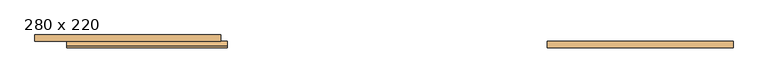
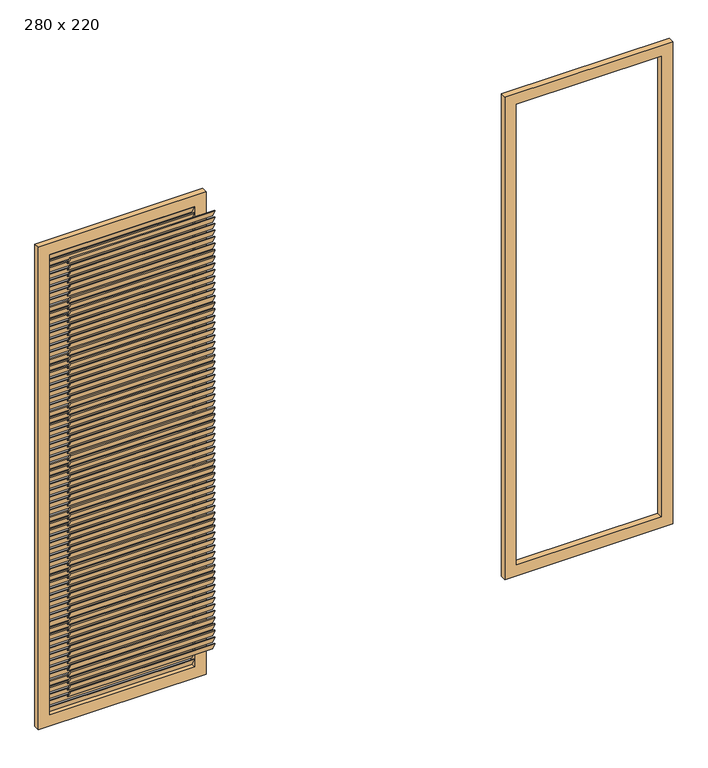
"""IFC4 building model written with IfcOpenShell, lengths in millimetres: door geometry, PORTA DE VIDRO COM ESQUADRIA DE CORRER - 4 FOLHAS + VENEZIANA DE CORRER - 4 FOLHAS : 280 x 220."""

import ifcopenshell
import ifcopenshell.guid

model = None  # the IFC model being written
_history = None  # IfcOwnerHistory: only IFC2X3 demands one
_inside = {}  # id of a spatial element -> (the spatial element, [elements in it])
_under = {}  # id of a project, library or spatial element -> (it, [spatial elements below it])
_declared = {}  # id of a project -> (the project, [libraries it declares])
_typed = {}  # id of a type object -> (the type object, [elements of that type])
_made_of = {}  # id of a material, layer set ... -> (it, [elements and type objects made of it])


def new_model(schema):
    """Start an empty IFC model of exactly this schema.

    Asked for "IFC4X3", IfcOpenShell would pick the latest addendum, in which some entities
    have other attributes; the version numbers below select the first issue.
    IFC2X3 requires an IfcOwnerHistory on every rooted entity: one is made here for all.
    """
    global model, _history
    if schema == "IFC4X3":
        model = ifcopenshell.file(schema_version=(4, 3, 0, 0))
    else:
        model = ifcopenshell.file(schema=schema)
    _inside.clear()
    _under.clear()
    _declared.clear()
    _typed.clear()
    _made_of.clear()
    _history = None
    if model.schema == "IFC2X3":
        org = make("IfcOrganization", Name="unknown")
        user = make(
            "IfcPersonAndOrganization",
            ThePerson=make("IfcPerson", FamilyName="unknown"),
            TheOrganization=org,
        )
        app = make(
            "IfcApplication",
            ApplicationDeveloper=org,
            Version="unknown",
            ApplicationFullName="unknown",
            ApplicationIdentifier="unknown",
        )
        _history = make(
            "IfcOwnerHistory",
            OwningUser=user,
            OwningApplication=app,
            ChangeAction="ADDED",
            CreationDate=0,
        )
    return model


def make(cls, **values):
    """One entity of the class cls with the attributes given. An attribute that is None is left unset."""
    return model.create_entity(
        cls, **{name: value for name, value in values.items() if value is not None}
    )


def rooted(cls, **values):
    """An entity with a GlobalId (a new one), such as an element, a storey or a relation."""
    return make(cls, GlobalId=ifcopenshell.guid.new(), OwnerHistory=_history, **values)


def si_unit(unit_type, name, prefix=None):
    """IfcSIUnit, for example si_unit("LENGTHUNIT", "METRE", prefix="MILLI")."""
    return make("IfcSIUnit", UnitType=unit_type, Prefix=prefix, Name=name)


def assignment(units):
    """IfcUnitAssignment: the units of a project."""
    return None if units is None else make("IfcUnitAssignment", Units=units)


def point(xyz):
    """IfcCartesianPoint."""
    return None if xyz is None else make("IfcCartesianPoint", Coordinates=xyz)


def direction(xyz):
    """IfcDirection."""
    return None if xyz is None else make("IfcDirection", DirectionRatios=xyz)


def frame(location, z_axis=None, x_axis=None):
    """IfcAxis2Placement3D, a coordinate frame: its origin and axes. An axis left out is left unset."""
    return make(
        "IfcAxis2Placement3D",
        Location=point(location),
        Axis=direction(z_axis),
        RefDirection=direction(x_axis),
    )


def origin():
    """The frame at (0, 0, 0) with its axes left unset."""
    return frame((0.0, 0.0, 0.0))


def place(relative_to, where):
    """IfcLocalPlacement: puts the frame where relative to a parent placement (None: the world)."""
    return make(
        "IfcLocalPlacement", PlacementRelTo=relative_to, RelativePlacement=where
    )


def context(
    kind, dimensions, precision=None, world=None, true_north=None, identifier=None
):
    """IfcGeometricRepresentationContext, for example the 3D "Model" context."""
    return make(
        "IfcGeometricRepresentationContext",
        ContextIdentifier=identifier,
        ContextType=kind,
        CoordinateSpaceDimension=dimensions,
        Precision=precision,
        WorldCoordinateSystem=world,
        TrueNorth=true_north,
    )


def project(units=None, contexts=None):
    """IfcProject with its units and contexts."""
    return rooted(
        "IfcProject",
        Name="project",
        RepresentationContexts=contexts,
        UnitsInContext=assignment(units),
    )


def spatial(cls, under=None, at=None, **own):
    """A site, building, storey or space (cls), placed at a placement, below another one or the project."""
    s = rooted(cls, ObjectPlacement=at, **own)
    if under is not None:
        _under.setdefault(under.id(), (under, []))[1].append(s)
    return s


def polyline(points):
    """IfcPolyline through the points."""
    return make("IfcPolyline", Points=[point(p) for p in points])


def outline(outer, holes=None, kind="AREA"):
    """IfcArbitraryClosedProfileDef: a profile drawn as a closed curve; with holes, ...WithVoids."""
    if holes is None:
        return make("IfcArbitraryClosedProfileDef", ProfileType=kind, OuterCurve=outer)
    return make(
        "IfcArbitraryProfileDefWithVoids",
        ProfileType=kind,
        OuterCurve=outer,
        InnerCurves=holes,
    )


def extrude(swept, where, along, depth):
    """IfcExtrudedAreaSolid: the profile swept, set in the frame where, extruded along a direction by depth."""
    return make(
        "IfcExtrudedAreaSolid",
        SweptArea=swept,
        Position=where,
        ExtrudedDirection=direction(along),
        Depth=depth,
    )


def shape(context_of_items, identifier, shape_type, items):
    """IfcShapeRepresentation: the items that make up one representation, for example the "Body"."""
    return make(
        "IfcShapeRepresentation",
        ContextOfItems=context_of_items,
        RepresentationIdentifier=identifier,
        RepresentationType=shape_type,
        Items=items,
    )


def source(mapping_origin, context_of_items, identifier, shape_type, items):
    """IfcRepresentationMap: a shape defined once, which mapped items show again and again."""
    return make(
        "IfcRepresentationMap",
        MappingOrigin=mapping_origin,
        MappedRepresentation=shape(context_of_items, identifier, shape_type, items),
    )


def transform(
    local_origin,
    x_axis=None,
    y_axis=None,
    z_axis=None,
    scale=None,
    scale2=None,
    scale3=None,
    uniform=True,
):
    """IfcCartesianTransformationOperator3D, or its non-uniform kind. x_axis, y_axis, z_axis: its Axis1, 2, 3."""
    if uniform:
        return make(
            "IfcCartesianTransformationOperator3D",
            Axis1=direction(x_axis),
            Axis2=direction(y_axis),
            LocalOrigin=point(local_origin),
            Scale=scale,
            Axis3=direction(z_axis),
        )
    return make(
        "IfcCartesianTransformationOperator3DnonUniform",
        Axis1=direction(x_axis),
        Axis2=direction(y_axis),
        LocalOrigin=point(local_origin),
        Scale=scale,
        Axis3=direction(z_axis),
        Scale2=scale2,
        Scale3=scale3,
    )


def mapped(mapping_source, mapping_target):
    """IfcMappedItem: shows the shape of a source again, moved by a transform."""
    return make(
        "IfcMappedItem", MappingSource=mapping_source, MappingTarget=mapping_target
    )


def made_of(thing, what):
    """Note that an element or type object is made of a material, layer set ...; save() writes the relation."""
    if what is not None:
        _made_of.setdefault(what.id(), (what, []))[1].append(thing)
    return thing


def element(
    cls,
    number,
    at=None,
    inside=None,
    cuts=None,
    type_object=None,
    material=None,
    context=None,
    identifier="Body",
    shape_type=None,
    held_by="IfcProductDefinitionShape",
    body=None,
    shapes=None,
    **own,
):
    """One element of the class cls, such as IfcWall. Its Tag is "e" and its number.

    at: its placement. inside: the storey or other place that contains it. cuts: it is an
    opening in that element (IfcRelVoidsElement). A single representation is given by context,
    identifier, shape_type and body (its items); several are given by shapes. held_by: the class
    of the entity that holds the representations. save() writes the other relations.
    """
    e = rooted(cls, Tag="e%d" % number, ObjectPlacement=at, **own)
    if body is not None:
        shapes = [shape(context, identifier, shape_type, body)]
    if shapes is not None:
        e.Representation = make(held_by, Representations=shapes)
    if inside is not None:
        _inside.setdefault(inside.id(), (inside, []))[1].append(e)
    if cuts is not None:
        rooted(
            "IfcRelVoidsElement", RelatingBuildingElement=cuts, RelatedOpeningElement=e
        )
    if type_object is not None:
        _typed.setdefault(type_object.id(), (type_object, []))[1].append(e)
    return made_of(e, material)


def aggregate(whole, parts):
    """IfcRelAggregates: a whole, such as a stair, and the parts it consists of."""
    return rooted("IfcRelAggregates", RelatingObject=whole, RelatedObjects=parts)


def save(model, path):
    """Write the relations noted so far, then the file.

    IfcRelAggregates (storeys below a building ...), IfcRelContainedInSpatialStructure (elements
    in a storey), IfcRelDefinesByType, IfcRelAssociatesMaterial and IfcRelDeclares: one each for
    every whole, place, type object, material and project.
    """
    for whole, parts in _under.values():
        aggregate(whole, parts)
    for where, things in _inside.values():
        rooted(
            "IfcRelContainedInSpatialStructure",
            RelatedElements=things,
            RelatingStructure=where,
        )
    for kind, things in _typed.values():
        rooted("IfcRelDefinesByType", RelatedObjects=things, RelatingType=kind)
    for what, things in _made_of.values():
        rooted("IfcRelAssociatesMaterial", RelatedObjects=things, RelatingMaterial=what)
    for by, libraries in _declared.values():
        rooted("IfcRelDeclares", RelatingContext=by, RelatedDefinitions=libraries)
    model.write(path)


def door_280_x_220_b82a3945(model_context):
    return source(origin(), model_context, "Body", "SweptSolid", [
        extrude(outline(polyline([(2200.0, 858.9134884), (0.0, 858.9134884), (0.0, 1583.9134884), (2200.0, 1583.9134884), (2200.0, 858.9134884)]), holes=[polyline([(2150.0, 908.9134884), (2150.0, 1533.9134884), (50.0, 1533.9134884), (50.0, 908.9134884), (2150.0, 908.9134884)])]), frame((0.0, -17.0317069, 0.0), z_axis=(0.0, 1.0, 0.0), x_axis=(0.0, 0.0, 1.0)), (0.0, 0.0, 1.0), 25.0),
        extrude(outline(polyline([(27.9682931, 2085.0724638), (7.9682931, 2120.0724638), (12.9682931, 2120.0724638), (32.9682931, 2085.0724638), (27.9682931, 2085.0724638)])), frame((-1091.0865116, 0.0, 0.0), z_axis=(1.0, 0.0, 0.0), x_axis=(0.0, 1.0, 0.0)), (0.0, 0.0, 1.0), 625.0),
        extrude(outline(polyline([(27.9682931, 2055.1449275), (7.9682931, 2090.1449275), (12.9682931, 2090.1449275), (32.9682931, 2055.1449275), (27.9682931, 2055.1449275)])), frame((-1091.0865116, 0.0, 0.0), z_axis=(1.0, 0.0, 0.0), x_axis=(0.0, 1.0, 0.0)), (0.0, 0.0, 1.0), 625.0),
        extrude(outline(polyline([(27.9682931, 2025.2173913), (7.9682931, 2060.2173913), (12.9682931, 2060.2173913), (32.9682931, 2025.2173913), (27.9682931, 2025.2173913)])), frame((-1091.0865116, 0.0, 0.0), z_axis=(1.0, 0.0, 0.0), x_axis=(0.0, 1.0, 0.0)), (0.0, 0.0, 1.0), 625.0),
        extrude(outline(polyline([(27.9682931, 1995.2898551), (7.9682931, 2030.2898551), (12.9682931, 2030.2898551), (32.9682931, 1995.2898551), (27.9682931, 1995.2898551)])), frame((-1091.0865116, 0.0, 0.0), z_axis=(1.0, 0.0, 0.0), x_axis=(0.0, 1.0, 0.0)), (0.0, 0.0, 1.0), 625.0),
        extrude(outline(polyline([(27.9682931, 1965.3623188), (7.9682931, 2000.3623188), (12.9682931, 2000.3623188), (32.9682931, 1965.3623188), (27.9682931, 1965.3623188)])), frame((-1091.0865116, 0.0, 0.0), z_axis=(1.0, 0.0, 0.0), x_axis=(0.0, 1.0, 0.0)), (0.0, 0.0, 1.0), 625.0),
        extrude(outline(polyline([(27.9682931, 1935.4347826), (7.9682931, 1970.4347826), (12.9682931, 1970.4347826), (32.9682931, 1935.4347826), (27.9682931, 1935.4347826)])), frame((-1091.0865116, 0.0, 0.0), z_axis=(1.0, 0.0, 0.0), x_axis=(0.0, 1.0, 0.0)), (0.0, 0.0, 1.0), 625.0),
        extrude(outline(polyline([(27.9682931, 1905.5072464), (7.9682931, 1940.5072464), (12.9682931, 1940.5072464), (32.9682931, 1905.5072464), (27.9682931, 1905.5072464)])), frame((-1091.0865116, 0.0, 0.0), z_axis=(1.0, 0.0, 0.0), x_axis=(0.0, 1.0, 0.0)), (0.0, 0.0, 1.0), 625.0),
        extrude(outline(polyline([(27.9682931, 1875.5797101), (7.9682931, 1910.5797101), (12.9682931, 1910.5797101), (32.9682931, 1875.5797101), (27.9682931, 1875.5797101)])), frame((-1091.0865116, 0.0, 0.0), z_axis=(1.0, 0.0, 0.0), x_axis=(0.0, 1.0, 0.0)), (0.0, 0.0, 1.0), 625.0),
        extrude(outline(polyline([(27.9682931, 1845.6521739), (7.9682931, 1880.6521739), (12.9682931, 1880.6521739), (32.9682931, 1845.6521739), (27.9682931, 1845.6521739)])), frame((-1091.0865116, 0.0, 0.0), z_axis=(1.0, 0.0, 0.0), x_axis=(0.0, 1.0, 0.0)), (0.0, 0.0, 1.0), 625.0),
        extrude(outline(polyline([(27.9682931, 1815.7246377), (7.9682931, 1850.7246377), (12.9682931, 1850.7246377), (32.9682931, 1815.7246377), (27.9682931, 1815.7246377)])), frame((-1091.0865116, 0.0, 0.0), z_axis=(1.0, 0.0, 0.0), x_axis=(0.0, 1.0, 0.0)), (0.0, 0.0, 1.0), 625.0),
        extrude(outline(polyline([(27.9682931, 1785.7971014), (7.9682931, 1820.7971014), (12.9682931, 1820.7971014), (32.9682931, 1785.7971014), (27.9682931, 1785.7971014)])), frame((-1091.0865116, 0.0, 0.0), z_axis=(1.0, 0.0, 0.0), x_axis=(0.0, 1.0, 0.0)), (0.0, 0.0, 1.0), 625.0),
        extrude(outline(polyline([(27.9682931, 1755.8695652), (7.9682931, 1790.8695652), (12.9682931, 1790.8695652), (32.9682931, 1755.8695652), (27.9682931, 1755.8695652)])), frame((-1091.0865116, 0.0, 0.0), z_axis=(1.0, 0.0, 0.0), x_axis=(0.0, 1.0, 0.0)), (0.0, 0.0, 1.0), 625.0),
        extrude(outline(polyline([(27.9682931, 1725.942029), (7.9682931, 1760.942029), (12.9682931, 1760.942029), (32.9682931, 1725.942029), (27.9682931, 1725.942029)])), frame((-1091.0865116, 0.0, 0.0), z_axis=(1.0, 0.0, 0.0), x_axis=(0.0, 1.0, 0.0)), (0.0, 0.0, 1.0), 625.0),
        extrude(outline(polyline([(27.9682931, 1696.0144928), (7.9682931, 1731.0144928), (12.9682931, 1731.0144928), (32.9682931, 1696.0144928), (27.9682931, 1696.0144928)])), frame((-1091.0865116, 0.0, 0.0), z_axis=(1.0, 0.0, 0.0), x_axis=(0.0, 1.0, 0.0)), (0.0, 0.0, 1.0), 625.0),
        extrude(outline(polyline([(27.9682931, 1666.0869565), (7.9682931, 1701.0869565), (12.9682931, 1701.0869565), (32.9682931, 1666.0869565), (27.9682931, 1666.0869565)])), frame((-1091.0865116, 0.0, 0.0), z_axis=(1.0, 0.0, 0.0), x_axis=(0.0, 1.0, 0.0)), (0.0, 0.0, 1.0), 625.0),
        extrude(outline(polyline([(27.9682931, 1636.1594203), (7.9682931, 1671.1594203), (12.9682931, 1671.1594203), (32.9682931, 1636.1594203), (27.9682931, 1636.1594203)])), frame((-1091.0865116, 0.0, 0.0), z_axis=(1.0, 0.0, 0.0), x_axis=(0.0, 1.0, 0.0)), (0.0, 0.0, 1.0), 625.0),
        extrude(outline(polyline([(27.9682931, 1606.2318841), (7.9682931, 1641.2318841), (12.9682931, 1641.2318841), (32.9682931, 1606.2318841), (27.9682931, 1606.2318841)])), frame((-1091.0865116, 0.0, 0.0), z_axis=(1.0, 0.0, 0.0), x_axis=(0.0, 1.0, 0.0)), (0.0, 0.0, 1.0), 625.0),
        extrude(outline(polyline([(27.9682931, 1576.3043478), (7.9682931, 1611.3043478), (12.9682931, 1611.3043478), (32.9682931, 1576.3043478), (27.9682931, 1576.3043478)])), frame((-1091.0865116, 0.0, 0.0), z_axis=(1.0, 0.0, 0.0), x_axis=(0.0, 1.0, 0.0)), (0.0, 0.0, 1.0), 625.0),
        extrude(outline(polyline([(27.9682931, 1546.3768116), (7.9682931, 1581.3768116), (12.9682931, 1581.3768116), (32.9682931, 1546.3768116), (27.9682931, 1546.3768116)])), frame((-1091.0865116, 0.0, 0.0), z_axis=(1.0, 0.0, 0.0), x_axis=(0.0, 1.0, 0.0)), (0.0, 0.0, 1.0), 625.0),
        extrude(outline(polyline([(27.9682931, 1516.4492754), (7.9682931, 1551.4492754), (12.9682931, 1551.4492754), (32.9682931, 1516.4492754), (27.9682931, 1516.4492754)])), frame((-1091.0865116, 0.0, 0.0), z_axis=(1.0, 0.0, 0.0), x_axis=(0.0, 1.0, 0.0)), (0.0, 0.0, 1.0), 625.0),
        extrude(outline(polyline([(27.9682931, 1486.5217391), (7.9682931, 1521.5217391), (12.9682931, 1521.5217391), (32.9682931, 1486.5217391), (27.9682931, 1486.5217391)])), frame((-1091.0865116, 0.0, 0.0), z_axis=(1.0, 0.0, 0.0), x_axis=(0.0, 1.0, 0.0)), (0.0, 0.0, 1.0), 625.0),
        extrude(outline(polyline([(27.9682931, 1456.5942029), (7.9682931, 1491.5942029), (12.9682931, 1491.5942029), (32.9682931, 1456.5942029), (27.9682931, 1456.5942029)])), frame((-1091.0865116, 0.0, 0.0), z_axis=(1.0, 0.0, 0.0), x_axis=(0.0, 1.0, 0.0)), (0.0, 0.0, 1.0), 625.0),
        extrude(outline(polyline([(27.9682931, 1426.6666667), (7.9682931, 1461.6666667), (12.9682931, 1461.6666667), (32.9682931, 1426.6666667), (27.9682931, 1426.6666667)])), frame((-1091.0865116, 0.0, 0.0), z_axis=(1.0, 0.0, 0.0), x_axis=(0.0, 1.0, 0.0)), (0.0, 0.0, 1.0), 625.0),
        extrude(outline(polyline([(27.9682931, 1396.7391304), (7.9682931, 1431.7391304), (12.9682931, 1431.7391304), (32.9682931, 1396.7391304), (27.9682931, 1396.7391304)])), frame((-1091.0865116, 0.0, 0.0), z_axis=(1.0, 0.0, 0.0), x_axis=(0.0, 1.0, 0.0)), (0.0, 0.0, 1.0), 625.0),
        extrude(outline(polyline([(27.9682931, 1366.8115942), (7.9682931, 1401.8115942), (12.9682931, 1401.8115942), (32.9682931, 1366.8115942), (27.9682931, 1366.8115942)])), frame((-1091.0865116, 0.0, 0.0), z_axis=(1.0, 0.0, 0.0), x_axis=(0.0, 1.0, 0.0)), (0.0, 0.0, 1.0), 625.0),
        extrude(outline(polyline([(27.9682931, 1336.884058), (7.9682931, 1371.884058), (12.9682931, 1371.884058), (32.9682931, 1336.884058), (27.9682931, 1336.884058)])), frame((-1091.0865116, 0.0, 0.0), z_axis=(1.0, 0.0, 0.0), x_axis=(0.0, 1.0, 0.0)), (0.0, 0.0, 1.0), 625.0),
        extrude(outline(polyline([(27.9682931, 1306.9565217), (7.9682931, 1341.9565217), (12.9682931, 1341.9565217), (32.9682931, 1306.9565217), (27.9682931, 1306.9565217)])), frame((-1091.0865116, 0.0, 0.0), z_axis=(1.0, 0.0, 0.0), x_axis=(0.0, 1.0, 0.0)), (0.0, 0.0, 1.0), 625.0),
        extrude(outline(polyline([(27.9682931, 1277.0289855), (7.9682931, 1312.0289855), (12.9682931, 1312.0289855), (32.9682931, 1277.0289855), (27.9682931, 1277.0289855)])), frame((-1091.0865116, 0.0, 0.0), z_axis=(1.0, 0.0, 0.0), x_axis=(0.0, 1.0, 0.0)), (0.0, 0.0, 1.0), 625.0),
        extrude(outline(polyline([(27.9682931, 1247.1014493), (7.9682931, 1282.1014493), (12.9682931, 1282.1014493), (32.9682931, 1247.1014493), (27.9682931, 1247.1014493)])), frame((-1091.0865116, 0.0, 0.0), z_axis=(1.0, 0.0, 0.0), x_axis=(0.0, 1.0, 0.0)), (0.0, 0.0, 1.0), 625.0),
        extrude(outline(polyline([(27.9682931, 1217.173913), (7.9682931, 1252.173913), (12.9682931, 1252.173913), (32.9682931, 1217.173913), (27.9682931, 1217.173913)])), frame((-1091.0865116, 0.0, 0.0), z_axis=(1.0, 0.0, 0.0), x_axis=(0.0, 1.0, 0.0)), (0.0, 0.0, 1.0), 625.0),
        extrude(outline(polyline([(27.9682931, 1187.2463768), (7.9682931, 1222.2463768), (12.9682931, 1222.2463768), (32.9682931, 1187.2463768), (27.9682931, 1187.2463768)])), frame((-1091.0865116, 0.0, 0.0), z_axis=(1.0, 0.0, 0.0), x_axis=(0.0, 1.0, 0.0)), (0.0, 0.0, 1.0), 625.0),
        extrude(outline(polyline([(27.9682931, 1157.3188406), (7.9682931, 1192.3188406), (12.9682931, 1192.3188406), (32.9682931, 1157.3188406), (27.9682931, 1157.3188406)])), frame((-1091.0865116, 0.0, 0.0), z_axis=(1.0, 0.0, 0.0), x_axis=(0.0, 1.0, 0.0)), (0.0, 0.0, 1.0), 625.0),
        extrude(outline(polyline([(27.9682931, 1127.3913043), (7.9682931, 1162.3913043), (12.9682931, 1162.3913043), (32.9682931, 1127.3913043), (27.9682931, 1127.3913043)])), frame((-1091.0865116, 0.0, 0.0), z_axis=(1.0, 0.0, 0.0), x_axis=(0.0, 1.0, 0.0)), (0.0, 0.0, 1.0), 625.0),
        extrude(outline(polyline([(27.9682931, 1097.4637681), (7.9682931, 1132.4637681), (12.9682931, 1132.4637681), (32.9682931, 1097.4637681), (27.9682931, 1097.4637681)])), frame((-1091.0865116, 0.0, 0.0), z_axis=(1.0, 0.0, 0.0), x_axis=(0.0, 1.0, 0.0)), (0.0, 0.0, 1.0), 625.0),
        extrude(outline(polyline([(27.9682931, 1067.5362319), (7.9682931, 1102.5362319), (12.9682931, 1102.5362319), (32.9682931, 1067.5362319), (27.9682931, 1067.5362319)])), frame((-1091.0865116, 0.0, 0.0), z_axis=(1.0, 0.0, 0.0), x_axis=(0.0, 1.0, 0.0)), (0.0, 0.0, 1.0), 625.0),
        extrude(outline(polyline([(27.9682931, 1037.6086957), (7.9682931, 1072.6086957), (12.9682931, 1072.6086957), (32.9682931, 1037.6086957), (27.9682931, 1037.6086957)])), frame((-1091.0865116, 0.0, 0.0), z_axis=(1.0, 0.0, 0.0), x_axis=(0.0, 1.0, 0.0)), (0.0, 0.0, 1.0), 625.0),
        extrude(outline(polyline([(27.9682931, 1007.6811594), (7.9682931, 1042.6811594), (12.9682931, 1042.6811594), (32.9682931, 1007.6811594), (27.9682931, 1007.6811594)])), frame((-1091.0865116, 0.0, 0.0), z_axis=(1.0, 0.0, 0.0), x_axis=(0.0, 1.0, 0.0)), (0.0, 0.0, 1.0), 625.0),
        extrude(outline(polyline([(27.9682931, 977.7536232), (7.9682931, 1012.7536232), (12.9682931, 1012.7536232), (32.9682931, 977.7536232), (27.9682931, 977.7536232)])), frame((-1091.0865116, 0.0, 0.0), z_axis=(1.0, 0.0, 0.0), x_axis=(0.0, 1.0, 0.0)), (0.0, 0.0, 1.0), 625.0),
        extrude(outline(polyline([(27.9682931, 947.826087), (7.9682931, 982.826087), (12.9682931, 982.826087), (32.9682931, 947.826087), (27.9682931, 947.826087)])), frame((-1091.0865116, 0.0, 0.0), z_axis=(1.0, 0.0, 0.0), x_axis=(0.0, 1.0, 0.0)), (0.0, 0.0, 1.0), 625.0),
        extrude(outline(polyline([(27.9682931, 917.8985507), (7.9682931, 952.8985507), (12.9682931, 952.8985507), (32.9682931, 917.8985507), (27.9682931, 917.8985507)])), frame((-1091.0865116, 0.0, 0.0), z_axis=(1.0, 0.0, 0.0), x_axis=(0.0, 1.0, 0.0)), (0.0, 0.0, 1.0), 625.0),
        extrude(outline(polyline([(27.9682931, 887.9710145), (7.9682931, 922.9710145), (12.9682931, 922.9710145), (32.9682931, 887.9710145), (27.9682931, 887.9710145)])), frame((-1091.0865116, 0.0, 0.0), z_axis=(1.0, 0.0, 0.0), x_axis=(0.0, 1.0, 0.0)), (0.0, 0.0, 1.0), 625.0),
        extrude(outline(polyline([(27.9682931, 858.0434783), (7.9682931, 893.0434783), (12.9682931, 893.0434783), (32.9682931, 858.0434783), (27.9682931, 858.0434783)])), frame((-1091.0865116, 0.0, 0.0), z_axis=(1.0, 0.0, 0.0), x_axis=(0.0, 1.0, 0.0)), (0.0, 0.0, 1.0), 625.0),
        extrude(outline(polyline([(27.9682931, 828.115942), (7.9682931, 863.115942), (12.9682931, 863.115942), (32.9682931, 828.115942), (27.9682931, 828.115942)])), frame((-1091.0865116, 0.0, 0.0), z_axis=(1.0, 0.0, 0.0), x_axis=(0.0, 1.0, 0.0)), (0.0, 0.0, 1.0), 625.0),
        extrude(outline(polyline([(27.9682931, 798.1884058), (7.9682931, 833.1884058), (12.9682931, 833.1884058), (32.9682931, 798.1884058), (27.9682931, 798.1884058)])), frame((-1091.0865116, 0.0, 0.0), z_axis=(1.0, 0.0, 0.0), x_axis=(0.0, 1.0, 0.0)), (0.0, 0.0, 1.0), 625.0),
        extrude(outline(polyline([(27.9682931, 768.2608696), (7.9682931, 803.2608696), (12.9682931, 803.2608696), (32.9682931, 768.2608696), (27.9682931, 768.2608696)])), frame((-1091.0865116, 0.0, 0.0), z_axis=(1.0, 0.0, 0.0), x_axis=(0.0, 1.0, 0.0)), (0.0, 0.0, 1.0), 625.0),
        extrude(outline(polyline([(27.9682931, 738.3333333), (7.9682931, 773.3333333), (12.9682931, 773.3333333), (32.9682931, 738.3333333), (27.9682931, 738.3333333)])), frame((-1091.0865116, 0.0, 0.0), z_axis=(1.0, 0.0, 0.0), x_axis=(0.0, 1.0, 0.0)), (0.0, 0.0, 1.0), 625.0),
        extrude(outline(polyline([(27.9682931, 708.4057971), (7.9682931, 743.4057971), (12.9682931, 743.4057971), (32.9682931, 708.4057971), (27.9682931, 708.4057971)])), frame((-1091.0865116, 0.0, 0.0), z_axis=(1.0, 0.0, 0.0), x_axis=(0.0, 1.0, 0.0)), (0.0, 0.0, 1.0), 625.0),
        extrude(outline(polyline([(27.9682931, 678.4782609), (7.9682931, 713.4782609), (12.9682931, 713.4782609), (32.9682931, 678.4782609), (27.9682931, 678.4782609)])), frame((-1091.0865116, 0.0, 0.0), z_axis=(1.0, 0.0, 0.0), x_axis=(0.0, 1.0, 0.0)), (0.0, 0.0, 1.0), 625.0),
        extrude(outline(polyline([(27.9682931, 648.5507246), (7.9682931, 683.5507246), (12.9682931, 683.5507246), (32.9682931, 648.5507246), (27.9682931, 648.5507246)])), frame((-1091.0865116, 0.0, 0.0), z_axis=(1.0, 0.0, 0.0), x_axis=(0.0, 1.0, 0.0)), (0.0, 0.0, 1.0), 625.0),
        extrude(outline(polyline([(27.9682931, 618.6231884), (7.9682931, 653.6231884), (12.9682931, 653.6231884), (32.9682931, 618.6231884), (27.9682931, 618.6231884)])), frame((-1091.0865116, 0.0, 0.0), z_axis=(1.0, 0.0, 0.0), x_axis=(0.0, 1.0, 0.0)), (0.0, 0.0, 1.0), 625.0),
        extrude(outline(polyline([(27.9682931, 588.6956522), (7.9682931, 623.6956522), (12.9682931, 623.6956522), (32.9682931, 588.6956522), (27.9682931, 588.6956522)])), frame((-1091.0865116, 0.0, 0.0), z_axis=(1.0, 0.0, 0.0), x_axis=(0.0, 1.0, 0.0)), (0.0, 0.0, 1.0), 625.0),
        extrude(outline(polyline([(27.9682931, 558.7681159), (7.9682931, 593.7681159), (12.9682931, 593.7681159), (32.9682931, 558.7681159), (27.9682931, 558.7681159)])), frame((-1091.0865116, 0.0, 0.0), z_axis=(1.0, 0.0, 0.0), x_axis=(0.0, 1.0, 0.0)), (0.0, 0.0, 1.0), 625.0),
        extrude(outline(polyline([(27.9682931, 528.8405797), (7.9682931, 563.8405797), (12.9682931, 563.8405797), (32.9682931, 528.8405797), (27.9682931, 528.8405797)])), frame((-1091.0865116, 0.0, 0.0), z_axis=(1.0, 0.0, 0.0), x_axis=(0.0, 1.0, 0.0)), (0.0, 0.0, 1.0), 625.0),
        extrude(outline(polyline([(27.9682931, 498.9130435), (7.9682931, 533.9130435), (12.9682931, 533.9130435), (32.9682931, 498.9130435), (27.9682931, 498.9130435)])), frame((-1091.0865116, 0.0, 0.0), z_axis=(1.0, 0.0, 0.0), x_axis=(0.0, 1.0, 0.0)), (0.0, 0.0, 1.0), 625.0),
        extrude(outline(polyline([(27.9682931, 468.9855072), (7.9682931, 503.9855072), (12.9682931, 503.9855072), (32.9682931, 468.9855072), (27.9682931, 468.9855072)])), frame((-1091.0865116, 0.0, 0.0), z_axis=(1.0, 0.0, 0.0), x_axis=(0.0, 1.0, 0.0)), (0.0, 0.0, 1.0), 625.0),
        extrude(outline(polyline([(27.9682931, 439.057971), (7.9682931, 474.057971), (12.9682931, 474.057971), (32.9682931, 439.057971), (27.9682931, 439.057971)])), frame((-1091.0865116, 0.0, 0.0), z_axis=(1.0, 0.0, 0.0), x_axis=(0.0, 1.0, 0.0)), (0.0, 0.0, 1.0), 625.0),
        extrude(outline(polyline([(27.9682931, 409.1304348), (7.9682931, 444.1304348), (12.9682931, 444.1304348), (32.9682931, 409.1304348), (27.9682931, 409.1304348)])), frame((-1091.0865116, 0.0, 0.0), z_axis=(1.0, 0.0, 0.0), x_axis=(0.0, 1.0, 0.0)), (0.0, 0.0, 1.0), 625.0),
        extrude(outline(polyline([(27.9682931, 379.2028986), (7.9682931, 414.2028986), (12.9682931, 414.2028986), (32.9682931, 379.2028986), (27.9682931, 379.2028986)])), frame((-1091.0865116, 0.0, 0.0), z_axis=(1.0, 0.0, 0.0), x_axis=(0.0, 1.0, 0.0)), (0.0, 0.0, 1.0), 625.0),
        extrude(outline(polyline([(27.9682931, 349.2753623), (7.9682931, 384.2753623), (12.9682931, 384.2753623), (32.9682931, 349.2753623), (27.9682931, 349.2753623)])), frame((-1091.0865116, 0.0, 0.0), z_axis=(1.0, 0.0, 0.0), x_axis=(0.0, 1.0, 0.0)), (0.0, 0.0, 1.0), 625.0),
        extrude(outline(polyline([(27.9682931, 319.3478261), (7.9682931, 354.3478261), (12.9682931, 354.3478261), (32.9682931, 319.3478261), (27.9682931, 319.3478261)])), frame((-1091.0865116, 0.0, 0.0), z_axis=(1.0, 0.0, 0.0), x_axis=(0.0, 1.0, 0.0)), (0.0, 0.0, 1.0), 625.0),
        extrude(outline(polyline([(27.9682931, 289.4202899), (7.9682931, 324.4202899), (12.9682931, 324.4202899), (32.9682931, 289.4202899), (27.9682931, 289.4202899)])), frame((-1091.0865116, 0.0, 0.0), z_axis=(1.0, 0.0, 0.0), x_axis=(0.0, 1.0, 0.0)), (0.0, 0.0, 1.0), 625.0),
        extrude(outline(polyline([(27.9682931, 259.4927536), (7.9682931, 294.4927536), (12.9682931, 294.4927536), (32.9682931, 259.4927536), (27.9682931, 259.4927536)])), frame((-1091.0865116, 0.0, 0.0), z_axis=(1.0, 0.0, 0.0), x_axis=(0.0, 1.0, 0.0)), (0.0, 0.0, 1.0), 625.0),
        extrude(outline(polyline([(27.9682931, 229.5652174), (7.9682931, 264.5652174), (12.9682931, 264.5652174), (32.9682931, 229.5652174), (27.9682931, 229.5652174)])), frame((-1091.0865116, 0.0, 0.0), z_axis=(1.0, 0.0, 0.0), x_axis=(0.0, 1.0, 0.0)), (0.0, 0.0, 1.0), 625.0),
        extrude(outline(polyline([(27.9682931, 199.6376812), (7.9682931, 234.6376812), (12.9682931, 234.6376812), (32.9682931, 199.6376812), (27.9682931, 199.6376812)])), frame((-1091.0865116, 0.0, 0.0), z_axis=(1.0, 0.0, 0.0), x_axis=(0.0, 1.0, 0.0)), (0.0, 0.0, 1.0), 625.0),
        extrude(outline(polyline([(27.9682931, 169.7101449), (7.9682931, 204.7101449), (12.9682931, 204.7101449), (32.9682931, 169.7101449), (27.9682931, 169.7101449)])), frame((-1091.0865116, 0.0, 0.0), z_axis=(1.0, 0.0, 0.0), x_axis=(0.0, 1.0, 0.0)), (0.0, 0.0, 1.0), 625.0),
        extrude(outline(polyline([(27.9682931, 139.7826087), (7.9682931, 174.7826087), (12.9682931, 174.7826087), (32.9682931, 139.7826087), (27.9682931, 139.7826087)])), frame((-1091.0865116, 0.0, 0.0), z_axis=(1.0, 0.0, 0.0), x_axis=(0.0, 1.0, 0.0)), (0.0, 0.0, 1.0), 625.0),
        extrude(outline(polyline([(27.9682931, 109.8550725), (7.9682931, 144.8550725), (12.9682931, 144.8550725), (32.9682931, 109.8550725), (27.9682931, 109.8550725)])), frame((-1091.0865116, 0.0, 0.0), z_axis=(1.0, 0.0, 0.0), x_axis=(0.0, 1.0, 0.0)), (0.0, 0.0, 1.0), 625.0),
        extrude(outline(polyline([(27.9682931, 79.9275362), (7.9682931, 114.9275362), (12.9682931, 114.9275362), (32.9682931, 79.9275362), (27.9682931, 79.9275362)])), frame((-1091.0865116, 0.0, 0.0), z_axis=(1.0, 0.0, 0.0), x_axis=(0.0, 1.0, 0.0)), (0.0, 0.0, 1.0), 625.0),
        extrude(outline(polyline([(27.9682931, 2115.0), (7.9682931, 2150.0), (12.9682931, 2150.0), (32.9682931, 2115.0), (27.9682931, 2115.0)])), frame((-1091.0865116, 0.0, 0.0), z_axis=(1.0, 0.0, 0.0), x_axis=(0.0, 1.0, 0.0)), (0.0, 0.0, 1.0), 625.0),
        extrude(outline(polyline([(27.9682931, 50.0), (7.9682931, 85.0), (12.9682931, 85.0), (32.9682931, 50.0), (27.9682931, 50.0)])), frame((-1091.0865116, 0.0, 0.0), z_axis=(1.0, 0.0, 0.0), x_axis=(0.0, 1.0, 0.0)), (0.0, 0.0, 1.0), 625.0),
        extrude(outline(polyline([(2200.0, -416.0865116), (2200.0, -1141.0865116), (0.0, -1141.0865116), (0.0, -416.0865116), (2200.0, -416.0865116)]), holes=[polyline([(2150.0, -466.0865116), (50.0, -466.0865116), (50.0, -1091.0865116), (2150.0, -1091.0865116), (2150.0, -466.0865116)])]), frame((0.0, 7.9682931, 0.0), z_axis=(0.0, 1.0, 0.0), x_axis=(0.0, 0.0, 1.0)), (0.0, 0.0, 1.0), 25.0),
        extrude(outline(polyline([(2.9682931, 2085.0724638), (-17.0317069, 2120.0724638), (-12.0317069, 2120.0724638), (7.9682931, 2085.0724638), (2.9682931, 2085.0724638)])), frame((-1016.0865116, 0.0, 0.0), z_axis=(1.0, 0.0, 0.0), x_axis=(0.0, 1.0, 0.0)), (0.0, 0.0, 1.0), 625.0),
        extrude(outline(polyline([(2.9682931, 2055.1449275), (-17.0317069, 2090.1449275), (-12.0317069, 2090.1449275), (7.9682931, 2055.1449275), (2.9682931, 2055.1449275)])), frame((-1016.0865116, 0.0, 0.0), z_axis=(1.0, 0.0, 0.0), x_axis=(0.0, 1.0, 0.0)), (0.0, 0.0, 1.0), 625.0),
        extrude(outline(polyline([(2.9682931, 2025.2173913), (-17.0317069, 2060.2173913), (-12.0317069, 2060.2173913), (7.9682931, 2025.2173913), (2.9682931, 2025.2173913)])), frame((-1016.0865116, 0.0, 0.0), z_axis=(1.0, 0.0, 0.0), x_axis=(0.0, 1.0, 0.0)), (0.0, 0.0, 1.0), 625.0),
        extrude(outline(polyline([(2.9682931, 1995.2898551), (-17.0317069, 2030.2898551), (-12.0317069, 2030.2898551), (7.9682931, 1995.2898551), (2.9682931, 1995.2898551)])), frame((-1016.0865116, 0.0, 0.0), z_axis=(1.0, 0.0, 0.0), x_axis=(0.0, 1.0, 0.0)), (0.0, 0.0, 1.0), 625.0),
        extrude(outline(polyline([(2.9682931, 1965.3623188), (-17.0317069, 2000.3623188), (-12.0317069, 2000.3623188), (7.9682931, 1965.3623188), (2.9682931, 1965.3623188)])), frame((-1016.0865116, 0.0, 0.0), z_axis=(1.0, 0.0, 0.0), x_axis=(0.0, 1.0, 0.0)), (0.0, 0.0, 1.0), 625.0),
        extrude(outline(polyline([(2.9682931, 1935.4347826), (-17.0317069, 1970.4347826), (-12.0317069, 1970.4347826), (7.9682931, 1935.4347826), (2.9682931, 1935.4347826)])), frame((-1016.0865116, 0.0, 0.0), z_axis=(1.0, 0.0, 0.0), x_axis=(0.0, 1.0, 0.0)), (0.0, 0.0, 1.0), 625.0),
        extrude(outline(polyline([(2.9682931, 1905.5072464), (-17.0317069, 1940.5072464), (-12.0317069, 1940.5072464), (7.9682931, 1905.5072464), (2.9682931, 1905.5072464)])), frame((-1016.0865116, 0.0, 0.0), z_axis=(1.0, 0.0, 0.0), x_axis=(0.0, 1.0, 0.0)), (0.0, 0.0, 1.0), 625.0),
        extrude(outline(polyline([(2.9682931, 1875.5797101), (-17.0317069, 1910.5797101), (-12.0317069, 1910.5797101), (7.9682931, 1875.5797101), (2.9682931, 1875.5797101)])), frame((-1016.0865116, 0.0, 0.0), z_axis=(1.0, 0.0, 0.0), x_axis=(0.0, 1.0, 0.0)), (0.0, 0.0, 1.0), 625.0),
        extrude(outline(polyline([(2.9682931, 1845.6521739), (-17.0317069, 1880.6521739), (-12.0317069, 1880.6521739), (7.9682931, 1845.6521739), (2.9682931, 1845.6521739)])), frame((-1016.0865116, 0.0, 0.0), z_axis=(1.0, 0.0, 0.0), x_axis=(0.0, 1.0, 0.0)), (0.0, 0.0, 1.0), 625.0),
        extrude(outline(polyline([(2.9682931, 1815.7246377), (-17.0317069, 1850.7246377), (-12.0317069, 1850.7246377), (7.9682931, 1815.7246377), (2.9682931, 1815.7246377)])), frame((-1016.0865116, 0.0, 0.0), z_axis=(1.0, 0.0, 0.0), x_axis=(0.0, 1.0, 0.0)), (0.0, 0.0, 1.0), 625.0),
        extrude(outline(polyline([(2.9682931, 1785.7971014), (-17.0317069, 1820.7971014), (-12.0317069, 1820.7971014), (7.9682931, 1785.7971014), (2.9682931, 1785.7971014)])), frame((-1016.0865116, 0.0, 0.0), z_axis=(1.0, 0.0, 0.0), x_axis=(0.0, 1.0, 0.0)), (0.0, 0.0, 1.0), 625.0),
        extrude(outline(polyline([(2.9682931, 1755.8695652), (-17.0317069, 1790.8695652), (-12.0317069, 1790.8695652), (7.9682931, 1755.8695652), (2.9682931, 1755.8695652)])), frame((-1016.0865116, 0.0, 0.0), z_axis=(1.0, 0.0, 0.0), x_axis=(0.0, 1.0, 0.0)), (0.0, 0.0, 1.0), 625.0),
        extrude(outline(polyline([(2.9682931, 1725.942029), (-17.0317069, 1760.942029), (-12.0317069, 1760.942029), (7.9682931, 1725.942029), (2.9682931, 1725.942029)])), frame((-1016.0865116, 0.0, 0.0), z_axis=(1.0, 0.0, 0.0), x_axis=(0.0, 1.0, 0.0)), (0.0, 0.0, 1.0), 625.0),
        extrude(outline(polyline([(2.9682931, 1696.0144928), (-17.0317069, 1731.0144928), (-12.0317069, 1731.0144928), (7.9682931, 1696.0144928), (2.9682931, 1696.0144928)])), frame((-1016.0865116, 0.0, 0.0), z_axis=(1.0, 0.0, 0.0), x_axis=(0.0, 1.0, 0.0)), (0.0, 0.0, 1.0), 625.0),
        extrude(outline(polyline([(2.9682931, 1666.0869565), (-17.0317069, 1701.0869565), (-12.0317069, 1701.0869565), (7.9682931, 1666.0869565), (2.9682931, 1666.0869565)])), frame((-1016.0865116, 0.0, 0.0), z_axis=(1.0, 0.0, 0.0), x_axis=(0.0, 1.0, 0.0)), (0.0, 0.0, 1.0), 625.0),
        extrude(outline(polyline([(2.9682931, 1636.1594203), (-17.0317069, 1671.1594203), (-12.0317069, 1671.1594203), (7.9682931, 1636.1594203), (2.9682931, 1636.1594203)])), frame((-1016.0865116, 0.0, 0.0), z_axis=(1.0, 0.0, 0.0), x_axis=(0.0, 1.0, 0.0)), (0.0, 0.0, 1.0), 625.0),
        extrude(outline(polyline([(2.9682931, 1606.2318841), (-17.0317069, 1641.2318841), (-12.0317069, 1641.2318841), (7.9682931, 1606.2318841), (2.9682931, 1606.2318841)])), frame((-1016.0865116, 0.0, 0.0), z_axis=(1.0, 0.0, 0.0), x_axis=(0.0, 1.0, 0.0)), (0.0, 0.0, 1.0), 625.0),
        extrude(outline(polyline([(2.9682931, 1576.3043478), (-17.0317069, 1611.3043478), (-12.0317069, 1611.3043478), (7.9682931, 1576.3043478), (2.9682931, 1576.3043478)])), frame((-1016.0865116, 0.0, 0.0), z_axis=(1.0, 0.0, 0.0), x_axis=(0.0, 1.0, 0.0)), (0.0, 0.0, 1.0), 625.0),
        extrude(outline(polyline([(2.9682931, 1546.3768116), (-17.0317069, 1581.3768116), (-12.0317069, 1581.3768116), (7.9682931, 1546.3768116), (2.9682931, 1546.3768116)])), frame((-1016.0865116, 0.0, 0.0), z_axis=(1.0, 0.0, 0.0), x_axis=(0.0, 1.0, 0.0)), (0.0, 0.0, 1.0), 625.0),
        extrude(outline(polyline([(2.9682931, 1516.4492754), (-17.0317069, 1551.4492754), (-12.0317069, 1551.4492754), (7.9682931, 1516.4492754), (2.9682931, 1516.4492754)])), frame((-1016.0865116, 0.0, 0.0), z_axis=(1.0, 0.0, 0.0), x_axis=(0.0, 1.0, 0.0)), (0.0, 0.0, 1.0), 625.0),
        extrude(outline(polyline([(2.9682931, 1486.5217391), (-17.0317069, 1521.5217391), (-12.0317069, 1521.5217391), (7.9682931, 1486.5217391), (2.9682931, 1486.5217391)])), frame((-1016.0865116, 0.0, 0.0), z_axis=(1.0, 0.0, 0.0), x_axis=(0.0, 1.0, 0.0)), (0.0, 0.0, 1.0), 625.0),
        extrude(outline(polyline([(2.9682931, 1456.5942029), (-17.0317069, 1491.5942029), (-12.0317069, 1491.5942029), (7.9682931, 1456.5942029), (2.9682931, 1456.5942029)])), frame((-1016.0865116, 0.0, 0.0), z_axis=(1.0, 0.0, 0.0), x_axis=(0.0, 1.0, 0.0)), (0.0, 0.0, 1.0), 625.0),
        extrude(outline(polyline([(2.9682931, 1426.6666667), (-17.0317069, 1461.6666667), (-12.0317069, 1461.6666667), (7.9682931, 1426.6666667), (2.9682931, 1426.6666667)])), frame((-1016.0865116, 0.0, 0.0), z_axis=(1.0, 0.0, 0.0), x_axis=(0.0, 1.0, 0.0)), (0.0, 0.0, 1.0), 625.0),
        extrude(outline(polyline([(2.9682931, 1396.7391304), (-17.0317069, 1431.7391304), (-12.0317069, 1431.7391304), (7.9682931, 1396.7391304), (2.9682931, 1396.7391304)])), frame((-1016.0865116, 0.0, 0.0), z_axis=(1.0, 0.0, 0.0), x_axis=(0.0, 1.0, 0.0)), (0.0, 0.0, 1.0), 625.0),
        extrude(outline(polyline([(2.9682931, 1366.8115942), (-17.0317069, 1401.8115942), (-12.0317069, 1401.8115942), (7.9682931, 1366.8115942), (2.9682931, 1366.8115942)])), frame((-1016.0865116, 0.0, 0.0), z_axis=(1.0, 0.0, 0.0), x_axis=(0.0, 1.0, 0.0)), (0.0, 0.0, 1.0), 625.0),
        extrude(outline(polyline([(2.9682931, 1336.884058), (-17.0317069, 1371.884058), (-12.0317069, 1371.884058), (7.9682931, 1336.884058), (2.9682931, 1336.884058)])), frame((-1016.0865116, 0.0, 0.0), z_axis=(1.0, 0.0, 0.0), x_axis=(0.0, 1.0, 0.0)), (0.0, 0.0, 1.0), 625.0),
        extrude(outline(polyline([(2.9682931, 1306.9565217), (-17.0317069, 1341.9565217), (-12.0317069, 1341.9565217), (7.9682931, 1306.9565217), (2.9682931, 1306.9565217)])), frame((-1016.0865116, 0.0, 0.0), z_axis=(1.0, 0.0, 0.0), x_axis=(0.0, 1.0, 0.0)), (0.0, 0.0, 1.0), 625.0),
        extrude(outline(polyline([(2.9682931, 1277.0289855), (-17.0317069, 1312.0289855), (-12.0317069, 1312.0289855), (7.9682931, 1277.0289855), (2.9682931, 1277.0289855)])), frame((-1016.0865116, 0.0, 0.0), z_axis=(1.0, 0.0, 0.0), x_axis=(0.0, 1.0, 0.0)), (0.0, 0.0, 1.0), 625.0),
        extrude(outline(polyline([(2.9682931, 1247.1014493), (-17.0317069, 1282.1014493), (-12.0317069, 1282.1014493), (7.9682931, 1247.1014493), (2.9682931, 1247.1014493)])), frame((-1016.0865116, 0.0, 0.0), z_axis=(1.0, 0.0, 0.0), x_axis=(0.0, 1.0, 0.0)), (0.0, 0.0, 1.0), 625.0),
        extrude(outline(polyline([(2.9682931, 1217.173913), (-17.0317069, 1252.173913), (-12.0317069, 1252.173913), (7.9682931, 1217.173913), (2.9682931, 1217.173913)])), frame((-1016.0865116, 0.0, 0.0), z_axis=(1.0, 0.0, 0.0), x_axis=(0.0, 1.0, 0.0)), (0.0, 0.0, 1.0), 625.0),
        extrude(outline(polyline([(2.9682931, 1187.2463768), (-17.0317069, 1222.2463768), (-12.0317069, 1222.2463768), (7.9682931, 1187.2463768), (2.9682931, 1187.2463768)])), frame((-1016.0865116, 0.0, 0.0), z_axis=(1.0, 0.0, 0.0), x_axis=(0.0, 1.0, 0.0)), (0.0, 0.0, 1.0), 625.0),
        extrude(outline(polyline([(2.9682931, 1157.3188406), (-17.0317069, 1192.3188406), (-12.0317069, 1192.3188406), (7.9682931, 1157.3188406), (2.9682931, 1157.3188406)])), frame((-1016.0865116, 0.0, 0.0), z_axis=(1.0, 0.0, 0.0), x_axis=(0.0, 1.0, 0.0)), (0.0, 0.0, 1.0), 625.0),
        extrude(outline(polyline([(2.9682931, 1127.3913043), (-17.0317069, 1162.3913043), (-12.0317069, 1162.3913043), (7.9682931, 1127.3913043), (2.9682931, 1127.3913043)])), frame((-1016.0865116, 0.0, 0.0), z_axis=(1.0, 0.0, 0.0), x_axis=(0.0, 1.0, 0.0)), (0.0, 0.0, 1.0), 625.0),
        extrude(outline(polyline([(2.9682931, 1097.4637681), (-17.0317069, 1132.4637681), (-12.0317069, 1132.4637681), (7.9682931, 1097.4637681), (2.9682931, 1097.4637681)])), frame((-1016.0865116, 0.0, 0.0), z_axis=(1.0, 0.0, 0.0), x_axis=(0.0, 1.0, 0.0)), (0.0, 0.0, 1.0), 625.0),
        extrude(outline(polyline([(2.9682931, 1067.5362319), (-17.0317069, 1102.5362319), (-12.0317069, 1102.5362319), (7.9682931, 1067.5362319), (2.9682931, 1067.5362319)])), frame((-1016.0865116, 0.0, 0.0), z_axis=(1.0, 0.0, 0.0), x_axis=(0.0, 1.0, 0.0)), (0.0, 0.0, 1.0), 625.0),
        extrude(outline(polyline([(2.9682931, 1037.6086957), (-17.0317069, 1072.6086957), (-12.0317069, 1072.6086957), (7.9682931, 1037.6086957), (2.9682931, 1037.6086957)])), frame((-1016.0865116, 0.0, 0.0), z_axis=(1.0, 0.0, 0.0), x_axis=(0.0, 1.0, 0.0)), (0.0, 0.0, 1.0), 625.0),
        extrude(outline(polyline([(2.9682931, 1007.6811594), (-17.0317069, 1042.6811594), (-12.0317069, 1042.6811594), (7.9682931, 1007.6811594), (2.9682931, 1007.6811594)])), frame((-1016.0865116, 0.0, 0.0), z_axis=(1.0, 0.0, 0.0), x_axis=(0.0, 1.0, 0.0)), (0.0, 0.0, 1.0), 625.0),
        extrude(outline(polyline([(2.9682931, 977.7536232), (-17.0317069, 1012.7536232), (-12.0317069, 1012.7536232), (7.9682931, 977.7536232), (2.9682931, 977.7536232)])), frame((-1016.0865116, 0.0, 0.0), z_axis=(1.0, 0.0, 0.0), x_axis=(0.0, 1.0, 0.0)), (0.0, 0.0, 1.0), 625.0),
        extrude(outline(polyline([(2.9682931, 947.826087), (-17.0317069, 982.826087), (-12.0317069, 982.826087), (7.9682931, 947.826087), (2.9682931, 947.826087)])), frame((-1016.0865116, 0.0, 0.0), z_axis=(1.0, 0.0, 0.0), x_axis=(0.0, 1.0, 0.0)), (0.0, 0.0, 1.0), 625.0),
        extrude(outline(polyline([(2.9682931, 917.8985507), (-17.0317069, 952.8985507), (-12.0317069, 952.8985507), (7.9682931, 917.8985507), (2.9682931, 917.8985507)])), frame((-1016.0865116, 0.0, 0.0), z_axis=(1.0, 0.0, 0.0), x_axis=(0.0, 1.0, 0.0)), (0.0, 0.0, 1.0), 625.0),
        extrude(outline(polyline([(2.9682931, 887.9710145), (-17.0317069, 922.9710145), (-12.0317069, 922.9710145), (7.9682931, 887.9710145), (2.9682931, 887.9710145)])), frame((-1016.0865116, 0.0, 0.0), z_axis=(1.0, 0.0, 0.0), x_axis=(0.0, 1.0, 0.0)), (0.0, 0.0, 1.0), 625.0),
        extrude(outline(polyline([(2.9682931, 858.0434783), (-17.0317069, 893.0434783), (-12.0317069, 893.0434783), (7.9682931, 858.0434783), (2.9682931, 858.0434783)])), frame((-1016.0865116, 0.0, 0.0), z_axis=(1.0, 0.0, 0.0), x_axis=(0.0, 1.0, 0.0)), (0.0, 0.0, 1.0), 625.0),
        extrude(outline(polyline([(2.9682931, 828.115942), (-17.0317069, 863.115942), (-12.0317069, 863.115942), (7.9682931, 828.115942), (2.9682931, 828.115942)])), frame((-1016.0865116, 0.0, 0.0), z_axis=(1.0, 0.0, 0.0), x_axis=(0.0, 1.0, 0.0)), (0.0, 0.0, 1.0), 625.0),
        extrude(outline(polyline([(2.9682931, 798.1884058), (-17.0317069, 833.1884058), (-12.0317069, 833.1884058), (7.9682931, 798.1884058), (2.9682931, 798.1884058)])), frame((-1016.0865116, 0.0, 0.0), z_axis=(1.0, 0.0, 0.0), x_axis=(0.0, 1.0, 0.0)), (0.0, 0.0, 1.0), 625.0),
        extrude(outline(polyline([(2.9682931, 768.2608696), (-17.0317069, 803.2608696), (-12.0317069, 803.2608696), (7.9682931, 768.2608696), (2.9682931, 768.2608696)])), frame((-1016.0865116, 0.0, 0.0), z_axis=(1.0, 0.0, 0.0), x_axis=(0.0, 1.0, 0.0)), (0.0, 0.0, 1.0), 625.0),
        extrude(outline(polyline([(2.9682931, 738.3333333), (-17.0317069, 773.3333333), (-12.0317069, 773.3333333), (7.9682931, 738.3333333), (2.9682931, 738.3333333)])), frame((-1016.0865116, 0.0, 0.0), z_axis=(1.0, 0.0, 0.0), x_axis=(0.0, 1.0, 0.0)), (0.0, 0.0, 1.0), 625.0),
        extrude(outline(polyline([(2.9682931, 708.4057971), (-17.0317069, 743.4057971), (-12.0317069, 743.4057971), (7.9682931, 708.4057971), (2.9682931, 708.4057971)])), frame((-1016.0865116, 0.0, 0.0), z_axis=(1.0, 0.0, 0.0), x_axis=(0.0, 1.0, 0.0)), (0.0, 0.0, 1.0), 625.0),
        extrude(outline(polyline([(2.9682931, 678.4782609), (-17.0317069, 713.4782609), (-12.0317069, 713.4782609), (7.9682931, 678.4782609), (2.9682931, 678.4782609)])), frame((-1016.0865116, 0.0, 0.0), z_axis=(1.0, 0.0, 0.0), x_axis=(0.0, 1.0, 0.0)), (0.0, 0.0, 1.0), 625.0),
        extrude(outline(polyline([(2.9682931, 648.5507246), (-17.0317069, 683.5507246), (-12.0317069, 683.5507246), (7.9682931, 648.5507246), (2.9682931, 648.5507246)])), frame((-1016.0865116, 0.0, 0.0), z_axis=(1.0, 0.0, 0.0), x_axis=(0.0, 1.0, 0.0)), (0.0, 0.0, 1.0), 625.0),
        extrude(outline(polyline([(2.9682931, 618.6231884), (-17.0317069, 653.6231884), (-12.0317069, 653.6231884), (7.9682931, 618.6231884), (2.9682931, 618.6231884)])), frame((-1016.0865116, 0.0, 0.0), z_axis=(1.0, 0.0, 0.0), x_axis=(0.0, 1.0, 0.0)), (0.0, 0.0, 1.0), 625.0),
        extrude(outline(polyline([(2.9682931, 588.6956522), (-17.0317069, 623.6956522), (-12.0317069, 623.6956522), (7.9682931, 588.6956522), (2.9682931, 588.6956522)])), frame((-1016.0865116, 0.0, 0.0), z_axis=(1.0, 0.0, 0.0), x_axis=(0.0, 1.0, 0.0)), (0.0, 0.0, 1.0), 625.0),
        extrude(outline(polyline([(2.9682931, 558.7681159), (-17.0317069, 593.7681159), (-12.0317069, 593.7681159), (7.9682931, 558.7681159), (2.9682931, 558.7681159)])), frame((-1016.0865116, 0.0, 0.0), z_axis=(1.0, 0.0, 0.0), x_axis=(0.0, 1.0, 0.0)), (0.0, 0.0, 1.0), 625.0),
        extrude(outline(polyline([(2.9682931, 528.8405797), (-17.0317069, 563.8405797), (-12.0317069, 563.8405797), (7.9682931, 528.8405797), (2.9682931, 528.8405797)])), frame((-1016.0865116, 0.0, 0.0), z_axis=(1.0, 0.0, 0.0), x_axis=(0.0, 1.0, 0.0)), (0.0, 0.0, 1.0), 625.0),
        extrude(outline(polyline([(2.9682931, 498.9130435), (-17.0317069, 533.9130435), (-12.0317069, 533.9130435), (7.9682931, 498.9130435), (2.9682931, 498.9130435)])), frame((-1016.0865116, 0.0, 0.0), z_axis=(1.0, 0.0, 0.0), x_axis=(0.0, 1.0, 0.0)), (0.0, 0.0, 1.0), 625.0),
        extrude(outline(polyline([(2.9682931, 468.9855072), (-17.0317069, 503.9855072), (-12.0317069, 503.9855072), (7.9682931, 468.9855072), (2.9682931, 468.9855072)])), frame((-1016.0865116, 0.0, 0.0), z_axis=(1.0, 0.0, 0.0), x_axis=(0.0, 1.0, 0.0)), (0.0, 0.0, 1.0), 625.0),
        extrude(outline(polyline([(2.9682931, 439.057971), (-17.0317069, 474.057971), (-12.0317069, 474.057971), (7.9682931, 439.057971), (2.9682931, 439.057971)])), frame((-1016.0865116, 0.0, 0.0), z_axis=(1.0, 0.0, 0.0), x_axis=(0.0, 1.0, 0.0)), (0.0, 0.0, 1.0), 625.0),
        extrude(outline(polyline([(2.9682931, 409.1304348), (-17.0317069, 444.1304348), (-12.0317069, 444.1304348), (7.9682931, 409.1304348), (2.9682931, 409.1304348)])), frame((-1016.0865116, 0.0, 0.0), z_axis=(1.0, 0.0, 0.0), x_axis=(0.0, 1.0, 0.0)), (0.0, 0.0, 1.0), 625.0),
        extrude(outline(polyline([(2.9682931, 379.2028986), (-17.0317069, 414.2028986), (-12.0317069, 414.2028986), (7.9682931, 379.2028986), (2.9682931, 379.2028986)])), frame((-1016.0865116, 0.0, 0.0), z_axis=(1.0, 0.0, 0.0), x_axis=(0.0, 1.0, 0.0)), (0.0, 0.0, 1.0), 625.0),
        extrude(outline(polyline([(2.9682931, 349.2753623), (-17.0317069, 384.2753623), (-12.0317069, 384.2753623), (7.9682931, 349.2753623), (2.9682931, 349.2753623)])), frame((-1016.0865116, 0.0, 0.0), z_axis=(1.0, 0.0, 0.0), x_axis=(0.0, 1.0, 0.0)), (0.0, 0.0, 1.0), 625.0),
        extrude(outline(polyline([(2.9682931, 319.3478261), (-17.0317069, 354.3478261), (-12.0317069, 354.3478261), (7.9682931, 319.3478261), (2.9682931, 319.3478261)])), frame((-1016.0865116, 0.0, 0.0), z_axis=(1.0, 0.0, 0.0), x_axis=(0.0, 1.0, 0.0)), (0.0, 0.0, 1.0), 625.0),
        extrude(outline(polyline([(2.9682931, 289.4202899), (-17.0317069, 324.4202899), (-12.0317069, 324.4202899), (7.9682931, 289.4202899), (2.9682931, 289.4202899)])), frame((-1016.0865116, 0.0, 0.0), z_axis=(1.0, 0.0, 0.0), x_axis=(0.0, 1.0, 0.0)), (0.0, 0.0, 1.0), 625.0),
        extrude(outline(polyline([(2.9682931, 259.4927536), (-17.0317069, 294.4927536), (-12.0317069, 294.4927536), (7.9682931, 259.4927536), (2.9682931, 259.4927536)])), frame((-1016.0865116, 0.0, 0.0), z_axis=(1.0, 0.0, 0.0), x_axis=(0.0, 1.0, 0.0)), (0.0, 0.0, 1.0), 625.0),
        extrude(outline(polyline([(2.9682931, 229.5652174), (-17.0317069, 264.5652174), (-12.0317069, 264.5652174), (7.9682931, 229.5652174), (2.9682931, 229.5652174)])), frame((-1016.0865116, 0.0, 0.0), z_axis=(1.0, 0.0, 0.0), x_axis=(0.0, 1.0, 0.0)), (0.0, 0.0, 1.0), 625.0),
        extrude(outline(polyline([(2.9682931, 199.6376812), (-17.0317069, 234.6376812), (-12.0317069, 234.6376812), (7.9682931, 199.6376812), (2.9682931, 199.6376812)])), frame((-1016.0865116, 0.0, 0.0), z_axis=(1.0, 0.0, 0.0), x_axis=(0.0, 1.0, 0.0)), (0.0, 0.0, 1.0), 625.0),
        extrude(outline(polyline([(2.9682931, 169.7101449), (-17.0317069, 204.7101449), (-12.0317069, 204.7101449), (7.9682931, 169.7101449), (2.9682931, 169.7101449)])), frame((-1016.0865116, 0.0, 0.0), z_axis=(1.0, 0.0, 0.0), x_axis=(0.0, 1.0, 0.0)), (0.0, 0.0, 1.0), 625.0),
        extrude(outline(polyline([(2.9682931, 139.7826087), (-17.0317069, 174.7826087), (-12.0317069, 174.7826087), (7.9682931, 139.7826087), (2.9682931, 139.7826087)])), frame((-1016.0865116, 0.0, 0.0), z_axis=(1.0, 0.0, 0.0), x_axis=(0.0, 1.0, 0.0)), (0.0, 0.0, 1.0), 625.0),
        extrude(outline(polyline([(2.9682931, 109.8550725), (-17.0317069, 144.8550725), (-12.0317069, 144.8550725), (7.9682931, 109.8550725), (2.9682931, 109.8550725)])), frame((-1016.0865116, 0.0, 0.0), z_axis=(1.0, 0.0, 0.0), x_axis=(0.0, 1.0, 0.0)), (0.0, 0.0, 1.0), 625.0),
    ])


if __name__ == "__main__":
    model = new_model("IFC4")
    model_context = context("Model", 3, world=origin())
    ifc_project = project(units=[si_unit("LENGTHUNIT", "METRE", prefix="MILLI")], contexts=[model_context])
    site = spatial("IfcSite", under=ifc_project)
    building = spatial("IfcBuilding", under=site)
    placement = place(None, origin())
    door_280_x_220_shape = door_280_x_220_b82a3945(model_context)
    element("IfcDoor", 1, ObjectType="PORTA DE VIDRO COM ESQUADRIA DE CORRER - 4 FOLHAS + VENEZIANA DE CORRER - 4 FOLHAS : 280 x 220", at=placement, inside=building, context=model_context, shape_type="MappedRepresentation", body=[
        mapped(door_280_x_220_shape, transform((0.0, 0.0, 0.0), x_axis=(1.0, 0.0, 0.0), y_axis=(0.0, 1.0, 0.0), z_axis=(0.0, 0.0, 1.0))),
    ])
    save(model, "model.ifc")
